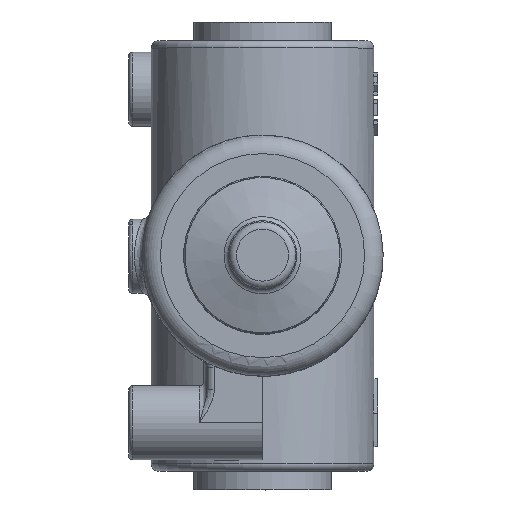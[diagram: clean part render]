
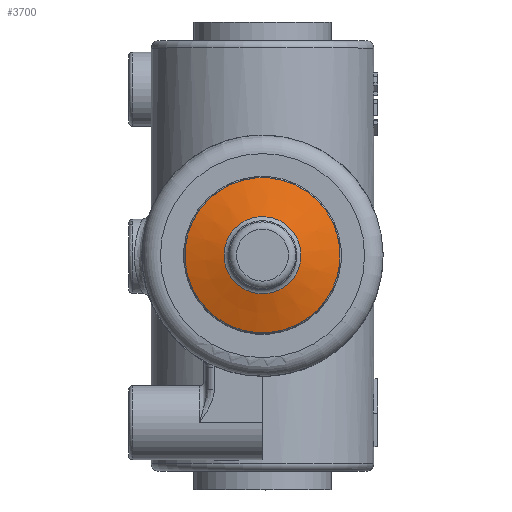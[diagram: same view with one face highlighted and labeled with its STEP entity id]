
A CAD part, top view. The second image highlights one B-rep face of the part: STEP entity #3700.
In plain terms, the highlighted conical face has half-angle 72.62 degrees and reference radius 15.646 mm.
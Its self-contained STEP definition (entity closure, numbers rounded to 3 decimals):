
#3669=CARTESIAN_POINT('',(10.032,-2.707,165.917));
#3670=VERTEX_POINT('',#3669);
#3671=CARTESIAN_POINT('',(0.,0.,165.917));
#3672=DIRECTION('',(0.,0.,1.0));
#3673=DIRECTION('',(0.965,-0.261,0.));
#3674=AXIS2_PLACEMENT_3D('',#3671,#3672,#3673);
#3675=CIRCLE('',#3674,10.391);
#3676=EDGE_CURVE('',#3670,#3670,#3675,.T.);
#3681=CARTESIAN_POINT('',(0.,0.,164.272));
#3682=DIRECTION('',(0.,0.,-1.0));
#3683=DIRECTION('',(0.965,-0.261,0.));
#3684=AXIS2_PLACEMENT_3D('',#3681,#3682,#3683);
#3685=CONICAL_SURFACE('',#3684,15.646,72.62);
#3686=ORIENTED_EDGE('',*,*,#3676,.F.);
#3687=EDGE_LOOP('',(#3686));
#3688=FACE_OUTER_BOUND('',#3687,.T.);
#3689=CARTESIAN_POINT('',(20.18,-5.445,162.627));
#3690=VERTEX_POINT('',#3689);
#3691=CARTESIAN_POINT('',(0.,0.,162.627));
#3692=DIRECTION('',(0.,0.,1.0));
#3693=DIRECTION('',(0.965,-0.261,0.));
#3694=AXIS2_PLACEMENT_3D('',#3691,#3692,#3693);
#3695=CIRCLE('',#3694,20.901);
#3696=EDGE_CURVE('',#3690,#3690,#3695,.T.);
#3697=ORIENTED_EDGE('',*,*,#3696,.T.);
#3698=EDGE_LOOP('',(#3697));
#3699=FACE_BOUND('',#3698,.T.);
#3700=ADVANCED_FACE('',(#3688,#3699),#3685,.T.);
